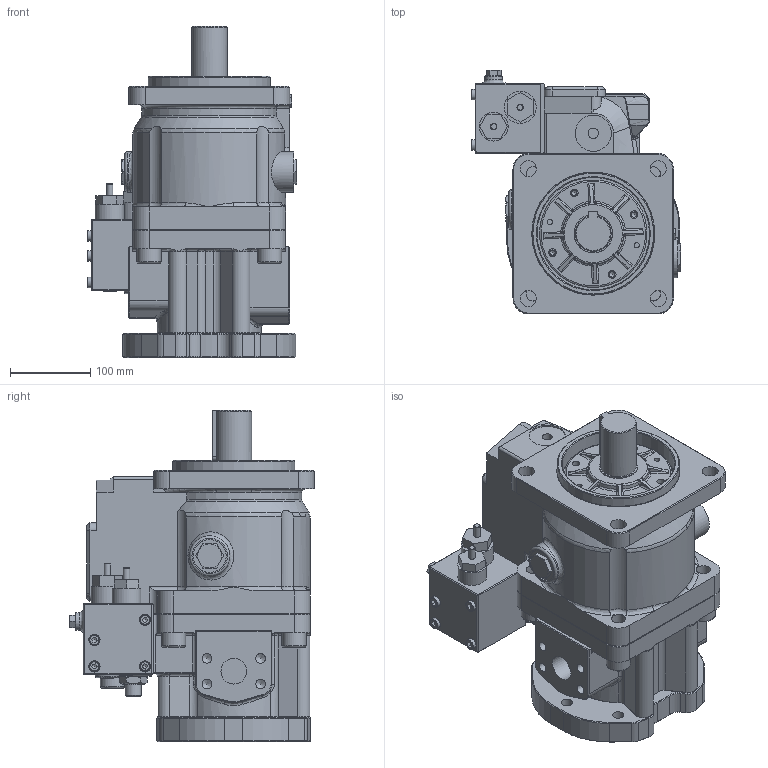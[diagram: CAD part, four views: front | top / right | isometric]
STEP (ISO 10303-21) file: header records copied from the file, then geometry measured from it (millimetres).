
FILE_DESCRIPTION((''),'2;1');
FILE_NAME('J:\Inventor\K3V, M2X\MODEL LIBRARY\K3VL112B 1CRKS L1.stp','2007-11-29T16:39:26',('mnorman'),(''),'Autodesk Inventor 2008','Autodesk Inventor 2008','');
FILE_SCHEMA(('AUTOMOTIVE_DESIGN { 1 0 10303 214 1 1 1 1 }'));
Length unit declared in the file: millimetre
Products named in the file (1): Part4
Bounding box: 261 x 304 x 412.1 mm (x, y, z)
Volume: 12523716.9 mm3; surface area: 665401.5 mm2
Topology: 1 solids, 29 shells, 1155 faces, 2691 edges, 1648 vertices
Faces by surface type: plane 489, bspline 272, cylinder 219, cone 144, torus 29, sphere 2
Full cylindrical faces by diameter (mm): 5 x4, 8 x6, 9.5 x4, 11 x2, 12 x4, 12.717 x1, 13 x4, 16 x2, 18 x4, 20 x10, 21 x1, 22 x1, 30 x5, 32 x1, 36 x1, 40 x1, 41 x2, 44.45 x1, 45 x1, 48 x2, 50 x2, 64 x1, 65 x1, 68 x1, 75 x1, 82.55 x2, 90 x2, 100 x1, 127 x1, 134 x1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
Entity records: 40693 total; most frequent: CARTESIAN_POINT 16137, ORIENTED_EDGE 4716, DIRECTION 4663, EDGE_CURVE 2358, AXIS2_PLACEMENT_3D 1791, VERTEX_POINT 1548, EDGE_LOOP 1490, FACE_OUTER_BOUND 1154
